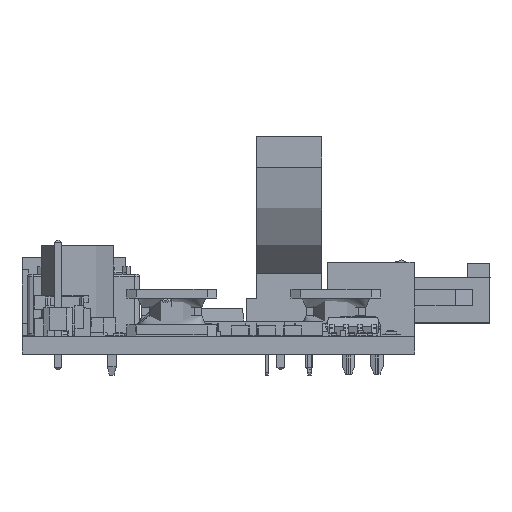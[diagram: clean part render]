
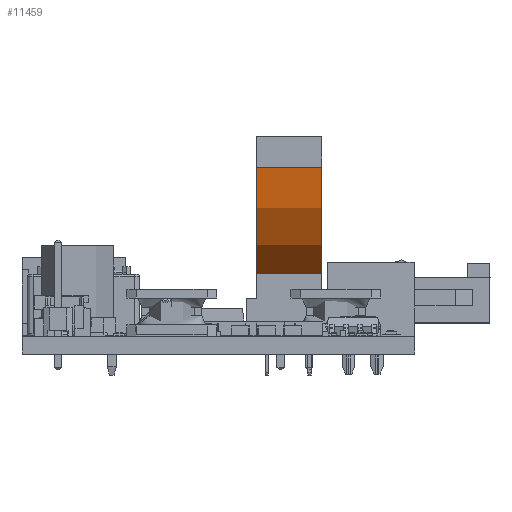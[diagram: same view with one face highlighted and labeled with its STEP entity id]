
A CAD part, front view. The second image highlights one B-rep face of the part: STEP entity #11459.
In plain terms, the highlighted cylindrical face has radius 11.45 mm (diameter 22.9 mm), a partial arc.
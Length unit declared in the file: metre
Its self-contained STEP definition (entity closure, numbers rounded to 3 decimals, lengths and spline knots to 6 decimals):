
#11459=ADVANCED_FACE('0:25807',(#21215),#21216,.T.);
#21215=FACE_OUTER_BOUND('',#42206,.T.);
#21216=CYLINDRICAL_SURFACE('',#42207,0.01145);
#42206=EDGE_LOOP('',(#66107,#66108,#66109,#66110));
#42207=AXIS2_PLACEMENT_3D('',#66111,#66112,#66113);
#66107=ORIENTED_EDGE('',*,*,#77005,.T.);
#66108=ORIENTED_EDGE('',*,*,#77075,.F.);
#66109=ORIENTED_EDGE('',*,*,#77077,.F.);
#66110=ORIENTED_EDGE('',*,*,#77050,.T.);
#66111=CARTESIAN_POINT('',(0.0,0.0,0.0));
#66112=DIRECTION('',(0.0,-1.0,0.0));
#66113=DIRECTION('',(0.0,0.0,1.0));
#77005=EDGE_CURVE('0:25927',#90482,#90480,#90483,.T.);
#77050=EDGE_CURVE('0:26050',#90565,#90482,#90566,.T.);
#77075=EDGE_CURVE('0:26116',#90605,#90480,#90607,.T.);
#77077=EDGE_CURVE('0:26119',#90565,#90605,#90609,.T.);
#90480=VERTEX_POINT('NONE',#111923);
#90482=VERTEX_POINT('NONE',#111926);
#90483=CIRCLE('',#111927,0.01145);
#90565=VERTEX_POINT('NONE',#112042);
#90566=LINE('',#112043,#112044);
#90605=VERTEX_POINT('NONE',#112103);
#90607=LINE('',#112106,#112107);
#90609=CIRCLE('',#112109,0.01145);
#111923=CARTESIAN_POINT('',(0.0065,0.0058,0.009426));
#111926=CARTESIAN_POINT('',(0.01145,0.0058,0.));
#111927=AXIS2_PLACEMENT_3D('',#122535,#122536,#122537);
#112042=CARTESIAN_POINT('',(0.01145,0.0,0.));
#112043=CARTESIAN_POINT('',(0.01145,0.0,0.));
#112044=VECTOR('',#122592,1.0);
#112103=CARTESIAN_POINT('',(0.0065,0.0,0.009426));
#112106=CARTESIAN_POINT('',(0.0065,0.0,0.009426));
#112107=VECTOR('',#122614,1.0);
#112109=AXIS2_PLACEMENT_3D('',#122615,#122616,#122617);
#122535=CARTESIAN_POINT('',(0.0,0.0058,0.0));
#122536=DIRECTION('',(0.0,-1.0,0.0));
#122537=DIRECTION('',(0.0,0.0,1.0));
#122592=DIRECTION('',(0.0,1.0,0.0));
#122614=DIRECTION('',(0.0,1.0,0.0));
#122615=CARTESIAN_POINT('',(0.0,0.0,0.0));
#122616=DIRECTION('',(0.0,-1.0,0.0));
#122617=DIRECTION('',(0.0,0.0,1.0));
